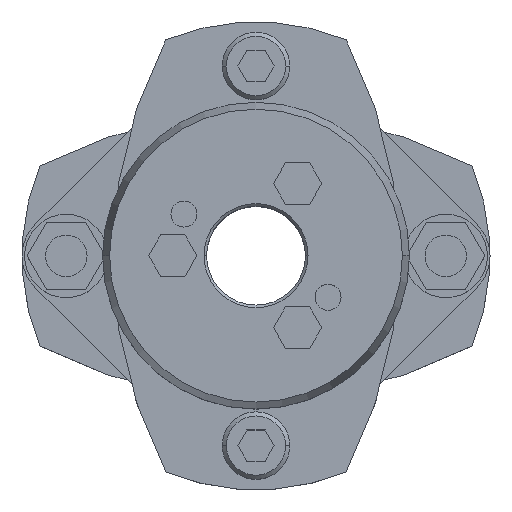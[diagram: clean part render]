
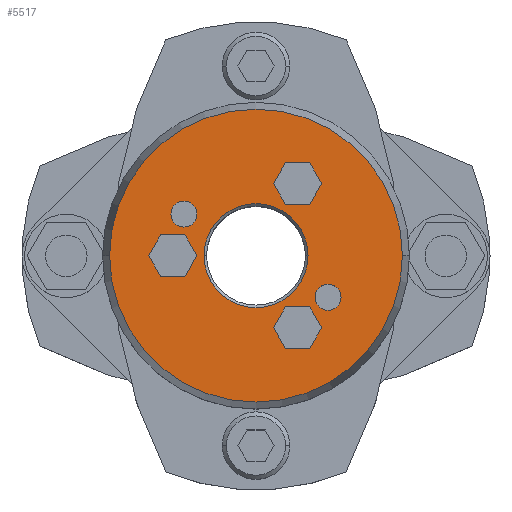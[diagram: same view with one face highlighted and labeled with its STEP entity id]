
A CAD part, top view. The second image highlights one B-rep face of the part: STEP entity #5517.
In plain terms, the highlighted planar face has unit normal (0, 0, 1).
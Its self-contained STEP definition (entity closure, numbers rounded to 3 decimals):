
#857=CARTESIAN_POINT('',(-10.,0.,39.25));
#858=VERTEX_POINT('',#857);
#874=CARTESIAN_POINT('',(10.,0.,39.25));
#875=VERTEX_POINT('',#874);
#882=CARTESIAN_POINT('',(0.,0.,39.25));
#883=DIRECTION('',(0.0,0.0,1.0));
#884=DIRECTION('',(-1.0,0.0,0.0));
#885=AXIS2_PLACEMENT_3D('',#882,#883,#884);
#886=CIRCLE('',#885,10.0);
#887=EDGE_CURVE('',#875,#858,#886,.T.);
#1045=CARTESIAN_POINT('',(28.16,0.,39.25));
#1046=VERTEX_POINT('',#1045);
#1053=CARTESIAN_POINT('',(-28.16,0.,39.25));
#1054=VERTEX_POINT('',#1053);
#1055=CARTESIAN_POINT('',(0.,0.,39.25));
#1056=DIRECTION('',(0.0,0.0,-1.0));
#1057=DIRECTION('',(1.0,0.0,0.0));
#1058=AXIS2_PLACEMENT_3D('',#1055,#1056,#1057);
#1059=CIRCLE('',#1058,28.16);
#1060=EDGE_CURVE('',#1046,#1054,#1059,.T.);
#1303=CARTESIAN_POINT('',(-16.356,8.,39.25));
#1304=VERTEX_POINT('',#1303);
#1320=CARTESIAN_POINT('',(-11.356,8.,39.25));
#1321=VERTEX_POINT('',#1320);
#1328=CARTESIAN_POINT('',(-13.856,8.,39.25));
#1329=DIRECTION('',(0.0,0.0,-1.0));
#1330=DIRECTION('',(-1.0,0.0,0.0));
#1331=AXIS2_PLACEMENT_3D('',#1328,#1329,#1330);
#1332=CIRCLE('',#1331,2.5);
#1333=EDGE_CURVE('',#1304,#1321,#1332,.T.);
#1345=CARTESIAN_POINT('',(11.356,-8.,39.25));
#1346=VERTEX_POINT('',#1345);
#1362=CARTESIAN_POINT('',(16.356,-8.,39.25));
#1363=VERTEX_POINT('',#1362);
#1370=CARTESIAN_POINT('',(13.856,-8.,39.25));
#1371=DIRECTION('',(0.0,0.0,-1.0));
#1372=DIRECTION('',(-1.0,0.0,0.0));
#1373=AXIS2_PLACEMENT_3D('',#1370,#1371,#1372);
#1374=CIRCLE('',#1373,2.5);
#1375=EDGE_CURVE('',#1346,#1363,#1374,.T.);
#4033=CARTESIAN_POINT('',(3.381,13.856,39.25));
#4034=VERTEX_POINT('',#4033);
#4041=CARTESIAN_POINT('',(5.691,9.856,39.25));
#4042=VERTEX_POINT('',#4041);
#4043=CARTESIAN_POINT('',(5.691,9.856,39.25));
#4044=DIRECTION('',(-0.5,0.866,0.0));
#4045=VECTOR('',#4044,4.619);
#4046=LINE('',#4043,#4045);
#4047=EDGE_CURVE('',#4042,#4034,#4046,.T.);
#4071=CARTESIAN_POINT('',(5.691,17.856,39.25));
#4072=VERTEX_POINT('',#4071);
#4079=CARTESIAN_POINT('',(3.381,13.856,39.25));
#4080=DIRECTION('',(0.5,0.866,0.0));
#4081=VECTOR('',#4080,4.619);
#4082=LINE('',#4079,#4081);
#4083=EDGE_CURVE('',#4034,#4072,#4082,.T.);
#4102=CARTESIAN_POINT('',(10.309,17.856,39.25));
#4103=VERTEX_POINT('',#4102);
#4110=CARTESIAN_POINT('',(5.691,17.856,39.25));
#4111=DIRECTION('',(1.0,0.0,0.0));
#4112=VECTOR('',#4111,4.619);
#4113=LINE('',#4110,#4112);
#4114=EDGE_CURVE('',#4072,#4103,#4113,.T.);
#4133=CARTESIAN_POINT('',(12.619,13.856,39.25));
#4134=VERTEX_POINT('',#4133);
#4141=CARTESIAN_POINT('',(10.309,17.856,39.25));
#4142=DIRECTION('',(0.5,-0.866,0.0));
#4143=VECTOR('',#4142,4.619);
#4144=LINE('',#4141,#4143);
#4145=EDGE_CURVE('',#4103,#4134,#4144,.T.);
#4164=CARTESIAN_POINT('',(10.309,9.856,39.25));
#4165=VERTEX_POINT('',#4164);
#4172=CARTESIAN_POINT('',(12.619,13.856,39.25));
#4173=DIRECTION('',(-0.5,-0.866,0.0));
#4174=VECTOR('',#4173,4.619);
#4175=LINE('',#4172,#4174);
#4176=EDGE_CURVE('',#4134,#4165,#4175,.T.);
#4194=CARTESIAN_POINT('',(10.309,9.856,39.25));
#4195=DIRECTION('',(-1.0,0.0,0.0));
#4196=VECTOR('',#4195,4.619);
#4197=LINE('',#4194,#4196);
#4198=EDGE_CURVE('',#4165,#4042,#4197,.T.);
#4233=CARTESIAN_POINT('',(-20.619,0.,39.25));
#4234=VERTEX_POINT('',#4233);
#4241=CARTESIAN_POINT('',(-18.309,-4.,39.25));
#4242=VERTEX_POINT('',#4241);
#4243=CARTESIAN_POINT('',(-18.309,-4.,39.25));
#4244=DIRECTION('',(-0.5,0.866,0.0));
#4245=VECTOR('',#4244,4.619);
#4246=LINE('',#4243,#4245);
#4247=EDGE_CURVE('',#4242,#4234,#4246,.T.);
#4271=CARTESIAN_POINT('',(-18.309,4.,39.25));
#4272=VERTEX_POINT('',#4271);
#4279=CARTESIAN_POINT('',(-20.619,0.,39.25));
#4280=DIRECTION('',(0.5,0.866,0.0));
#4281=VECTOR('',#4280,4.619);
#4282=LINE('',#4279,#4281);
#4283=EDGE_CURVE('',#4234,#4272,#4282,.T.);
#4302=CARTESIAN_POINT('',(-13.691,4.,39.25));
#4303=VERTEX_POINT('',#4302);
#4310=CARTESIAN_POINT('',(-18.309,4.,39.25));
#4311=DIRECTION('',(1.0,0.0,0.0));
#4312=VECTOR('',#4311,4.619);
#4313=LINE('',#4310,#4312);
#4314=EDGE_CURVE('',#4272,#4303,#4313,.T.);
#4333=CARTESIAN_POINT('',(-11.381,0.,39.25));
#4334=VERTEX_POINT('',#4333);
#4341=CARTESIAN_POINT('',(-13.691,4.,39.25));
#4342=DIRECTION('',(0.5,-0.866,0.0));
#4343=VECTOR('',#4342,4.619);
#4344=LINE('',#4341,#4343);
#4345=EDGE_CURVE('',#4303,#4334,#4344,.T.);
#4364=CARTESIAN_POINT('',(-13.691,-4.,39.25));
#4365=VERTEX_POINT('',#4364);
#4372=CARTESIAN_POINT('',(-11.381,0.,39.25));
#4373=DIRECTION('',(-0.5,-0.866,0.0));
#4374=VECTOR('',#4373,4.619);
#4375=LINE('',#4372,#4374);
#4376=EDGE_CURVE('',#4334,#4365,#4375,.T.);
#4394=CARTESIAN_POINT('',(-13.691,-4.,39.25));
#4395=DIRECTION('',(-1.0,0.0,0.0));
#4396=VECTOR('',#4395,4.619);
#4397=LINE('',#4394,#4396);
#4398=EDGE_CURVE('',#4365,#4242,#4397,.T.);
#4433=CARTESIAN_POINT('',(3.381,-13.856,39.25));
#4434=VERTEX_POINT('',#4433);
#4441=CARTESIAN_POINT('',(5.691,-17.856,39.25));
#4442=VERTEX_POINT('',#4441);
#4443=CARTESIAN_POINT('',(5.691,-17.856,39.25));
#4444=DIRECTION('',(-0.5,0.866,0.0));
#4445=VECTOR('',#4444,4.619);
#4446=LINE('',#4443,#4445);
#4447=EDGE_CURVE('',#4442,#4434,#4446,.T.);
#4471=CARTESIAN_POINT('',(5.691,-9.856,39.25));
#4472=VERTEX_POINT('',#4471);
#4479=CARTESIAN_POINT('',(3.381,-13.856,39.25));
#4480=DIRECTION('',(0.5,0.866,0.0));
#4481=VECTOR('',#4480,4.619);
#4482=LINE('',#4479,#4481);
#4483=EDGE_CURVE('',#4434,#4472,#4482,.T.);
#4502=CARTESIAN_POINT('',(10.309,-9.856,39.25));
#4503=VERTEX_POINT('',#4502);
#4510=CARTESIAN_POINT('',(5.691,-9.856,39.25));
#4511=DIRECTION('',(1.0,0.0,0.0));
#4512=VECTOR('',#4511,4.619);
#4513=LINE('',#4510,#4512);
#4514=EDGE_CURVE('',#4472,#4503,#4513,.T.);
#4533=CARTESIAN_POINT('',(12.619,-13.856,39.25));
#4534=VERTEX_POINT('',#4533);
#4541=CARTESIAN_POINT('',(10.309,-9.856,39.25));
#4542=DIRECTION('',(0.5,-0.866,0.0));
#4543=VECTOR('',#4542,4.619);
#4544=LINE('',#4541,#4543);
#4545=EDGE_CURVE('',#4503,#4534,#4544,.T.);
#4564=CARTESIAN_POINT('',(10.309,-17.856,39.25));
#4565=VERTEX_POINT('',#4564);
#4572=CARTESIAN_POINT('',(12.619,-13.856,39.25));
#4573=DIRECTION('',(-0.5,-0.866,0.0));
#4574=VECTOR('',#4573,4.619);
#4575=LINE('',#4572,#4574);
#4576=EDGE_CURVE('',#4534,#4565,#4575,.T.);
#4594=CARTESIAN_POINT('',(10.309,-17.856,39.25));
#4595=DIRECTION('',(-1.0,0.0,0.0));
#4596=VECTOR('',#4595,4.619);
#4597=LINE('',#4594,#4596);
#4598=EDGE_CURVE('',#4565,#4442,#4597,.T.);
#4624=CARTESIAN_POINT('',(13.856,-8.,39.25));
#4625=DIRECTION('',(0.0,0.0,-1.0));
#4626=DIRECTION('',(-1.0,0.0,0.0));
#4627=AXIS2_PLACEMENT_3D('',#4624,#4625,#4626);
#4628=CIRCLE('',#4627,2.5);
#4629=EDGE_CURVE('',#1363,#1346,#4628,.T.);
#4658=CARTESIAN_POINT('',(-13.856,8.,39.25));
#4659=DIRECTION('',(0.0,0.0,-1.0));
#4660=DIRECTION('',(-1.0,0.0,0.0));
#4661=AXIS2_PLACEMENT_3D('',#4658,#4659,#4660);
#4662=CIRCLE('',#4661,2.5);
#4663=EDGE_CURVE('',#1321,#1304,#4662,.T.);
#5456=CARTESIAN_POINT('',(0.,0.,39.25));
#5457=DIRECTION('',(0.0,0.0,-1.0));
#5458=DIRECTION('',(1.0,0.0,0.0));
#5459=AXIS2_PLACEMENT_3D('',#5456,#5457,#5458);
#5460=CIRCLE('',#5459,28.16);
#5461=EDGE_CURVE('',#1054,#1046,#5460,.T.);
#5466=CARTESIAN_POINT('',(-2.682,0.,39.25));
#5467=DIRECTION('',(0.0,0.0,1.0));
#5468=DIRECTION('',(-1.0,0.0,0.0));
#5469=AXIS2_PLACEMENT_3D('',#5466,#5467,#5468);
#5470=PLANE('',#5469);
#5471=ORIENTED_EDGE('',*,*,#5461,.F.);
#5472=ORIENTED_EDGE('',*,*,#1060,.F.);
#5473=EDGE_LOOP('',(#5471,#5472));
#5474=FACE_OUTER_BOUND('',#5473,.T.);
#5475=ORIENTED_EDGE('',*,*,#4047,.T.);
#5476=ORIENTED_EDGE('',*,*,#4083,.T.);
#5477=ORIENTED_EDGE('',*,*,#4114,.T.);
#5478=ORIENTED_EDGE('',*,*,#4145,.T.);
#5479=ORIENTED_EDGE('',*,*,#4176,.T.);
#5480=ORIENTED_EDGE('',*,*,#4198,.T.);
#5481=EDGE_LOOP('',(#5475,#5476,#5477,#5478,#5479,#5480));
#5482=FACE_BOUND('',#5481,.T.);
#5483=ORIENTED_EDGE('',*,*,#4247,.T.);
#5484=ORIENTED_EDGE('',*,*,#4283,.T.);
#5485=ORIENTED_EDGE('',*,*,#4314,.T.);
#5486=ORIENTED_EDGE('',*,*,#4345,.T.);
#5487=ORIENTED_EDGE('',*,*,#4376,.T.);
#5488=ORIENTED_EDGE('',*,*,#4398,.T.);
#5489=EDGE_LOOP('',(#5483,#5484,#5485,#5486,#5487,#5488));
#5490=FACE_BOUND('',#5489,.T.);
#5491=ORIENTED_EDGE('',*,*,#4447,.T.);
#5492=ORIENTED_EDGE('',*,*,#4483,.T.);
#5493=ORIENTED_EDGE('',*,*,#4514,.T.);
#5494=ORIENTED_EDGE('',*,*,#4545,.T.);
#5495=ORIENTED_EDGE('',*,*,#4576,.T.);
#5496=ORIENTED_EDGE('',*,*,#4598,.T.);
#5497=EDGE_LOOP('',(#5491,#5492,#5493,#5494,#5495,#5496));
#5498=FACE_BOUND('',#5497,.T.);
#5499=ORIENTED_EDGE('',*,*,#1375,.T.);
#5500=ORIENTED_EDGE('',*,*,#4629,.T.);
#5501=EDGE_LOOP('',(#5499,#5500));
#5502=FACE_BOUND('',#5501,.T.);
#5503=ORIENTED_EDGE('',*,*,#1333,.T.);
#5504=ORIENTED_EDGE('',*,*,#4663,.T.);
#5505=EDGE_LOOP('',(#5503,#5504));
#5506=FACE_BOUND('',#5505,.T.);
#5507=ORIENTED_EDGE('',*,*,#887,.F.);
#5508=CARTESIAN_POINT('',(0.,0.,39.25));
#5509=DIRECTION('',(0.0,0.0,1.0));
#5510=DIRECTION('',(-1.0,0.0,0.0));
#5511=AXIS2_PLACEMENT_3D('',#5508,#5509,#5510);
#5512=CIRCLE('',#5511,10.0);
#5513=EDGE_CURVE('',#858,#875,#5512,.T.);
#5514=ORIENTED_EDGE('',*,*,#5513,.F.);
#5515=EDGE_LOOP('',(#5507,#5514));
#5516=FACE_BOUND('',#5515,.T.);
#5517=ADVANCED_FACE('',(#5474,#5482,#5490,#5498,#5502,#5506,#5516),#5470,.T.);
